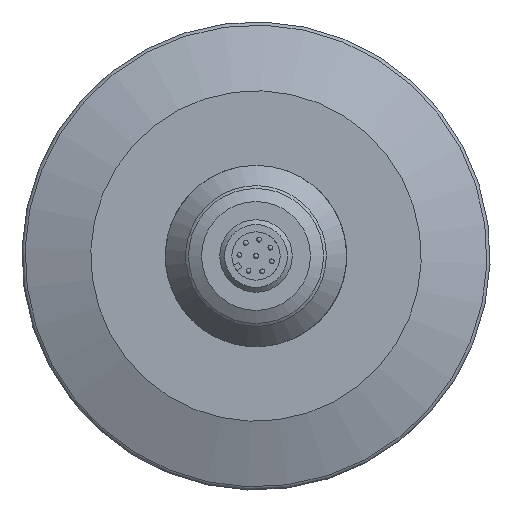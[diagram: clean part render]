
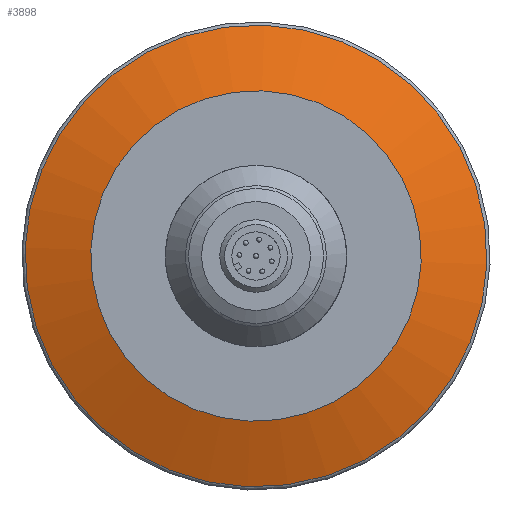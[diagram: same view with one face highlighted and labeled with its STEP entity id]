
A CAD part, front view. The second image highlights one B-rep face of the part: STEP entity #3898.
In plain terms, the highlighted conical face has half-angle 70 degrees and reference radius 38.224 mm.
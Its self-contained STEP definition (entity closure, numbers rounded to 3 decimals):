
#280=CONICAL_SURFACE('',#4064,38.224,1.222);
#1324=ORIENTED_EDGE('',*,*,#1709,.T.);
#1325=ORIENTED_EDGE('',*,*,#1710,.T.);
#1709=EDGE_CURVE('',#1972,#1972,#2039,.T.);
#1710=EDGE_CURVE('',#1973,#1973,#2040,.T.);
#1972=VERTEX_POINT('',#9102);
#1973=VERTEX_POINT('',#9105);
#2039=CIRCLE('',#4063,38.224);
#2040=CIRCLE('',#4065,27.348);
#2259=EDGE_LOOP('',(#1324));
#2260=EDGE_LOOP('',(#1325));
#2494=FACE_BOUND('',#2259,.T.);
#2495=FACE_BOUND('',#2260,.T.);
#3898=ADVANCED_FACE('',(#2494,#2495),#280,.T.);
#4063=AXIS2_PLACEMENT_3D('',#9101,#4510,#4511);
#4064=AXIS2_PLACEMENT_3D('',#9103,#4512,#4513);
#4065=AXIS2_PLACEMENT_3D('',#9104,#4514,#4515);
#4510=DIRECTION('',(0.,-1.,0.));
#4511=DIRECTION('',(0.99,0.,0.138));
#4512=DIRECTION('',(0.,1.,0.));
#4513=DIRECTION('',(0.99,0.,0.138));
#4514=DIRECTION('',(0.,1.,0.));
#4515=DIRECTION('',(0.99,0.,0.138));
#9101=CARTESIAN_POINT('',(0.,3.865,0.));
#9102=CARTESIAN_POINT('',(37.858,3.865,5.272));
#9103=CARTESIAN_POINT('',(0.,3.865,0.));
#9104=CARTESIAN_POINT('',(0.,-0.094,0.));
#9105=CARTESIAN_POINT('',(27.087,-0.094,3.772));
